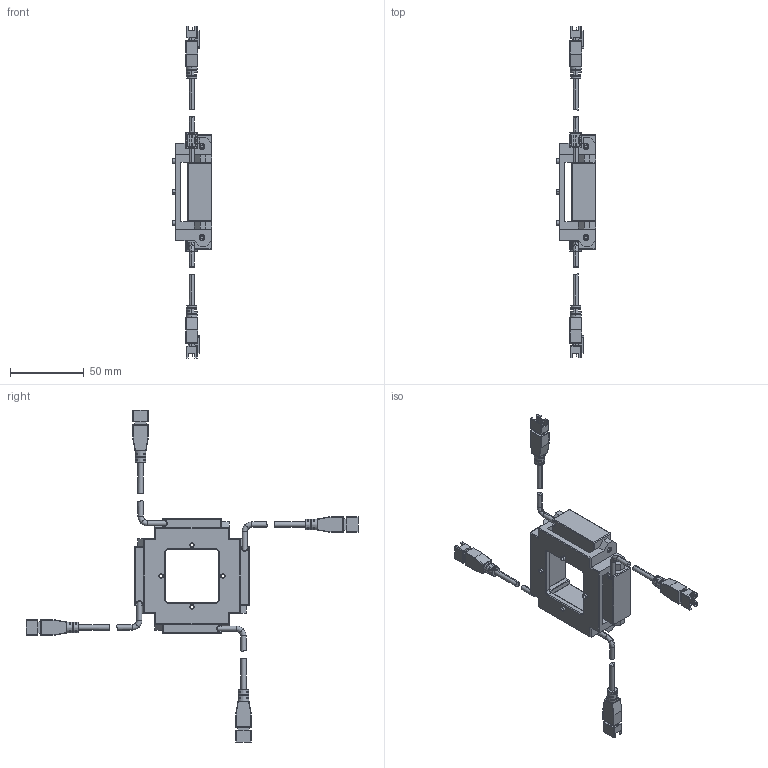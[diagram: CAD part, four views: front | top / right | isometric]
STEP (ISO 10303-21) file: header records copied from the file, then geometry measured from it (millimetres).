
FILE_DESCRIPTION((''),'2;1');
FILE_NAME('JIANYI_ASM','2014-06-16T',('admin'),(''),'PRO/ENGINEER BY PARAMETRIC TECHNOLOGY CORPORATION, 2011220','PRO/ENGINEER BY PARAMETRIC TECHNOLOGY CORPORATION, 2011220','');
FILE_SCHEMA(('CONFIG_CONTROL_DESIGN'));
Length unit declared in the file: millimetre
Products named in the file (9): P-ROL-78-1; M2-6BEITOU; JIANYI_4; LINE_TOU_1; BODY_12_1; ASSY_ASM_1_ASM; JIANYIMOXING_ASM_1_ASM; P-BL-40-16_ASM_ASM; JIANYI_ASM
Assembly tree (18 placements, depth 5):
  JIANYI_ASM
    P-ROL-78-1
    M2-6BEITOU  x8
    P-BL-40-16_ASM_ASM  x4
      JIANYIMOXING_ASM_1_ASM
        JIANYI_4
        ASSY_ASM_1_ASM
          LINE_TOU_1
          BODY_12_1
Bounding box: 27 x 225.7 x 225.7 mm (x, y, z)
Volume: 72308 mm3; surface area: 36698.8 mm2
Topology: 21 solids, 41 shells, 1398 faces, 3588 edges, 2268 vertices
Faces by surface type: plane 814, cylinder 420, cone 52, torus 48, bspline 32, sphere 32
Entity records: 14270 total; most frequent: CARTESIAN_POINT 2921, DIRECTION 2378, ORIENTED_EDGE 2252, EDGE_CURVE 1142, AXIS2_PLACEMENT_3D 810, VECTOR 758, LINE 758, VERTEX_POINT 736
